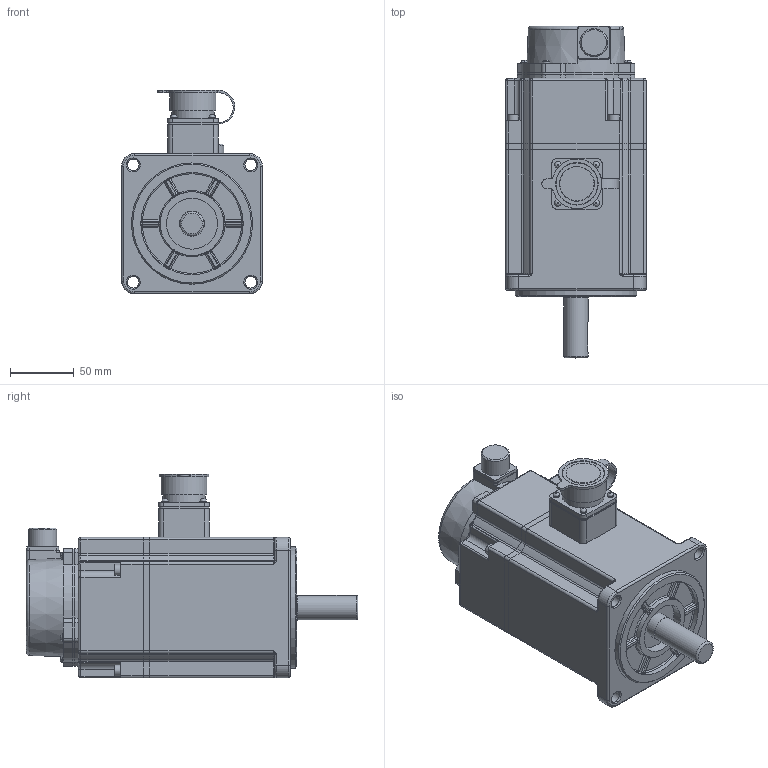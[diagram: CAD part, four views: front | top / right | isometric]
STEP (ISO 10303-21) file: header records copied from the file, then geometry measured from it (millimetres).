
FILE_DESCRIPTION(/* description */ (''),/* implementation_level */ '2;1');
FILE_NAME(/* name */ '标准6N.stp',/* time_stamp */ '2024-04-19T14:22:08+08:00',/* author */ (''),/* organization */ (''),/* preprocessor_version */ 'ST-DEVELOPER v18.1',/* originating_system */ 'SIEMENS PLM Software NX 2000',/* authorisation */ '');
FILE_SCHEMA (('AUTOMOTIVE_DESIGN { 1 0 10303 214 3 1 1 1 }'));
Length unit declared in the file: millimetre
Products named in the file (1): 92504378DBD25y9z
Bounding box: 110 x 260 x 159.5 mm (x, y, z)
Volume: 1999894.5 mm3; surface area: 233603.2 mm2
Topology: 22 solids, 24 shells, 1043 faces, 2466 edges, 1460 vertices
Faces by surface type: cylinder 391, plane 348, torus 94, bspline 92, sphere 60, cone 58
Full cylindrical faces by diameter (mm): 2 x4, 2.5 x8, 3.5 x4, 4.1 x8, 4.2 x3, 4.826 x4, 5 x10, 5.5 x3, 8.5 x4, 9 x4, 19 x1, 19.6 x1, 20 x1, 22 x1, 22.288 x1, 24.616 x1, 27 x2, 28 x1, 30 x1, 33 x3, 35 x1, 36 x1, 40 x2, 84 x1, 95 x1, 100 x1, 101.4 x1, 104 x3
Entity records: 31719 total; most frequent: CARTESIAN_POINT 8586, DIRECTION 5046, ORIENTED_EDGE 4454, EDGE_CURVE 2227, AXIS2_PLACEMENT_3D 2069, VERTEX_POINT 1407, EDGE_LOOP 1274, CIRCLE 1101
